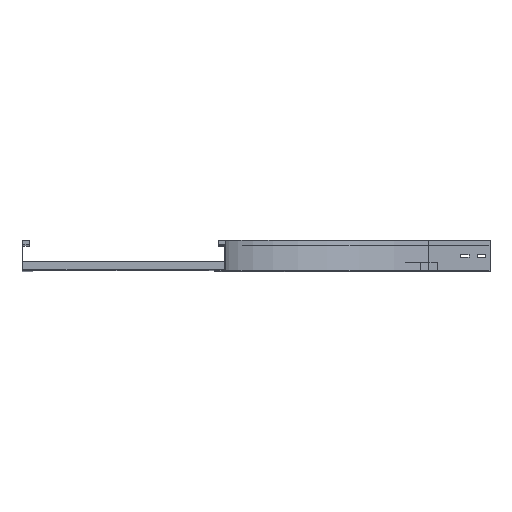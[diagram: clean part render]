
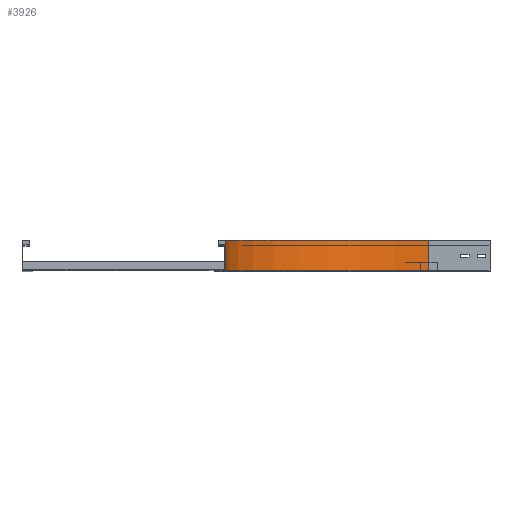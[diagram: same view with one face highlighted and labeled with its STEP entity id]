
A CAD part, top view. The second image highlights one B-rep face of the part: STEP entity #3926.
In plain terms, the highlighted cylindrical face has radius 500 mm (diameter 1000 mm), a partial arc.
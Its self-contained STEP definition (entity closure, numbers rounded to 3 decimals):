
#49 = AXIS2_PLACEMENT_3D ( 'NONE', #1128, #1449, #1789 ) ;
#67 = ORIENTED_EDGE ( 'NONE', *, *, #2146, .T. ) ;
#171 = VERTEX_POINT ( 'NONE', #3570 ) ;
#315 = AXIS2_PLACEMENT_3D ( 'NONE', #2388, #2008, #3406 ) ;
#434 = DIRECTION ( 'NONE',  ( 0., -1., 0. ) ) ;
#488 = CARTESIAN_POINT ( 'NONE',  ( 500., 0., -650. ) ) ;
#512 = ORIENTED_EDGE ( 'NONE', *, *, #1574, .F. ) ;
#766 = CIRCLE ( 'NONE', #3819, 500. ) ;
#1057 = DIRECTION ( 'NONE',  ( -1., 0., 0. ) ) ;
#1108 = EDGE_LOOP ( 'NONE', ( #512, #1662, #3693, #67 ) ) ;
#1128 = CARTESIAN_POINT ( 'NONE',  ( 500., 0., -150. ) ) ;
#1449 = DIRECTION ( 'NONE',  ( 0., -1., 0. ) ) ;
#1574 = EDGE_CURVE ( 'NONE', #2192, #2238, #766, .T. ) ;
#1662 = ORIENTED_EDGE ( 'NONE', *, *, #2525, .F. ) ;
#1681 = CYLINDRICAL_SURFACE ( 'NONE', #315, 500. ) ;
#1789 = DIRECTION ( 'NONE',  ( -1., 0., 0. ) ) ;
#1801 = VERTEX_POINT ( 'NONE', #3795 ) ;
#2008 = DIRECTION ( 'NONE',  ( 0., -1., 0. ) ) ;
#2076 = CARTESIAN_POINT ( 'NONE',  ( 0., 75., -150. ) ) ;
#2109 = DIRECTION ( 'NONE',  ( 0., 1., 0. ) ) ;
#2146 = EDGE_CURVE ( 'NONE', #1801, #2238, #3831, .T. ) ;
#2192 = VERTEX_POINT ( 'NONE', #2076 ) ;
#2195 = VECTOR ( 'NONE', #2109, 1000. ) ;
#2238 = VERTEX_POINT ( 'NONE', #2393 ) ;
#2388 = CARTESIAN_POINT ( 'NONE',  ( 500., 0., -150. ) ) ;
#2393 = CARTESIAN_POINT ( 'NONE',  ( 500., 75., -650. ) ) ;
#2430 = CARTESIAN_POINT ( 'NONE',  ( 0., 0., -150. ) ) ;
#2509 = CIRCLE ( 'NONE', #49, 500. ) ;
#2525 = EDGE_CURVE ( 'NONE', #171, #2192, #2986, .T. ) ;
#2686 = CARTESIAN_POINT ( 'NONE',  ( 500., 75., -150. ) ) ;
#2986 = LINE ( 'NONE', #2430, #2195 ) ;
#3046 = FACE_OUTER_BOUND ( 'NONE', #1108, .T. ) ;
#3406 = DIRECTION ( 'NONE',  ( 0., 0., -1. ) ) ;
#3570 = CARTESIAN_POINT ( 'NONE',  ( 0., 0., -150. ) ) ;
#3693 = ORIENTED_EDGE ( 'NONE', *, *, #4132, .T. ) ;
#3767 = DIRECTION ( 'NONE',  ( 0., 1., 0. ) ) ;
#3795 = CARTESIAN_POINT ( 'NONE',  ( 500., 0., -650. ) ) ;
#3819 = AXIS2_PLACEMENT_3D ( 'NONE', #2686, #434, #1057 ) ;
#3831 = LINE ( 'NONE', #488, #3953 ) ;
#3926 = ADVANCED_FACE ( 'NONE', ( #3046 ), #1681, .F. ) ;
#3953 = VECTOR ( 'NONE', #3767, 1000. ) ;
#4132 = EDGE_CURVE ( 'NONE', #171, #1801, #2509, .T. ) ;
